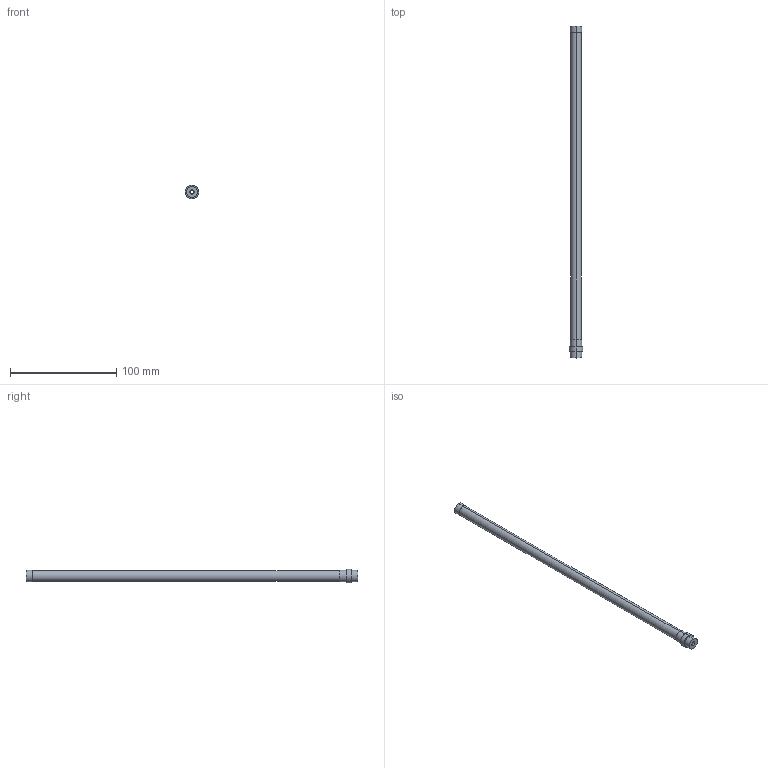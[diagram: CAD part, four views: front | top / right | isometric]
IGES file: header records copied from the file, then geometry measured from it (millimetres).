
Start section: SolidWorks IGES FILE using analytic representation for surfaces
Global section: file name: \\intra-srv04\開発データ\CAD_Data\CAD委員会\3D電子ｶﾀﾛｸﾞ\製品カタログ（新）\0_IGES\ER-VAK30.IGS,41HSolidWorks 2004; native system: by SolidWorks Corporation; preprocessor: Version 5.3; author: mf1158; date: 050905.093047; units: millimetre
Bounding box: 13 x 312 x 13 mm (x, y, z)
Volume: 21099.4 mm3; surface area: 14083.5 mm2
Topology: 1 solids, 1 shells, 18 faces, 36 edges, 24 vertices
Faces by surface type: revolution 12, plane 6
